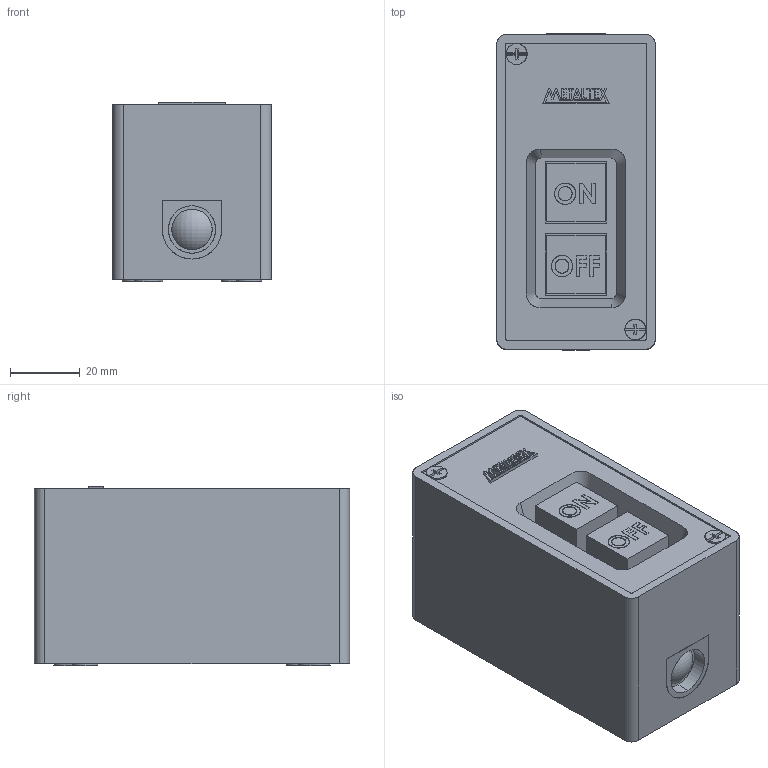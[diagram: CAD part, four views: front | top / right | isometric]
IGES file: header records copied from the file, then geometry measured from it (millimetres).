
Start section: SolidWorks IGES file using analytic representation for surfaces
Global section: file name: D:\X - Arquivos\PROEX\Empresas\P11 - METALTEX\01 - Produtos\IGES\Terceira remessa\TBSP-330.IGS; native system: SolidWorks 2012; preprocessor: SolidWorks 2012; author: Usuario; date: 180207.114736; units: millimetre
Bounding box: 45.5 x 90.7 x 51.5 mm (x, y, z)
Surface area: 25189.7 mm2 (no closed solid volume)
Topology: 0 solids, 0 shells, 286 faces, 2884 edges, 2884 vertices
Faces by surface type: bspline 239, revolution 47
